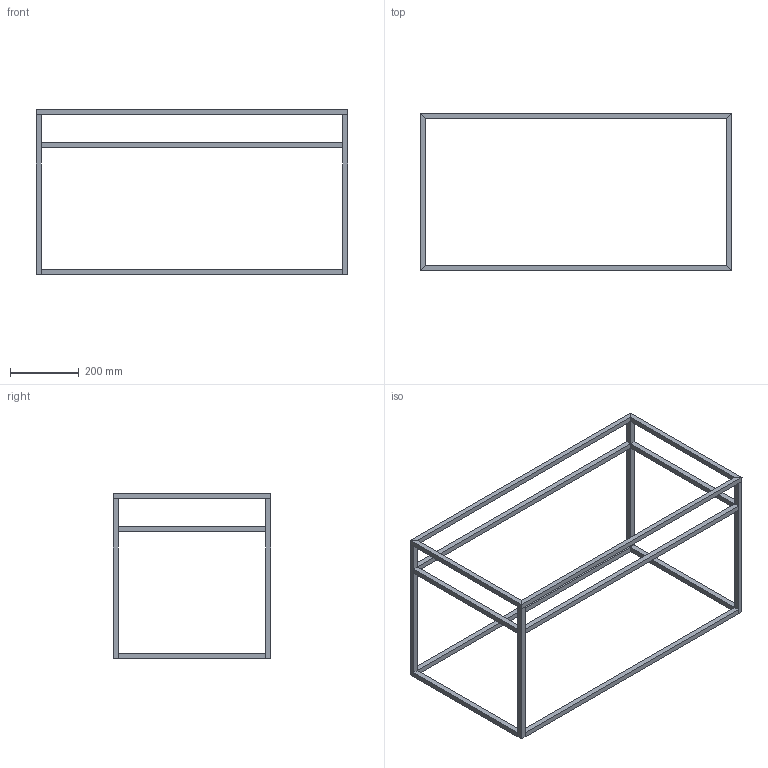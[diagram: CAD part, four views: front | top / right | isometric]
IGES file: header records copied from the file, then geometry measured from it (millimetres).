
Start section: START RECORD GO HERE.
Global section: file name: 2074.igs; native system: DASSAULT SYSTEMES CATIA V5 R19 - www.3ds.com; preprocessor: CATIA Version 5 Release 19 SP 5 ; author: gioge; organization: LAPTOP-G94B6G74; date: 20201003.152751; units: millimetre
Bounding box: 910 x 460 x 480 mm (x, y, z)
Surface area: 594745.6 mm2 (no closed solid volume)
Topology: 0 solids, 0 shells, 96 faces, 384 edges, 384 vertices
Faces by surface type: plane 96
